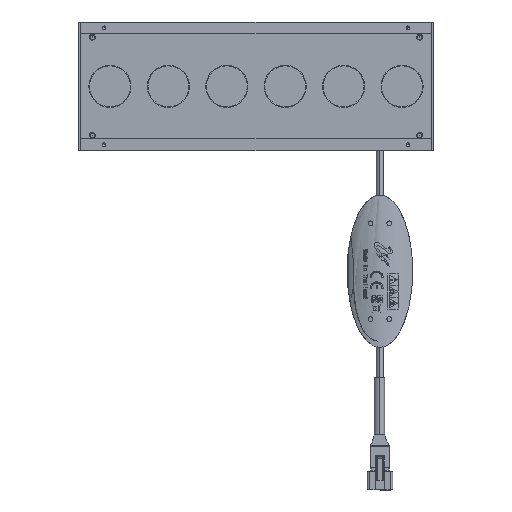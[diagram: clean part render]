
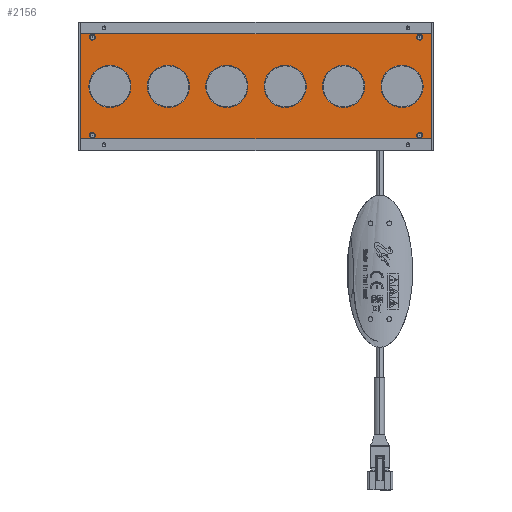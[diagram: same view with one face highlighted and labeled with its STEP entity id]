
A CAD part, top view. The second image highlights one B-rep face of the part: STEP entity #2156.
In plain terms, the highlighted planar face has unit normal (0, 0, 1).
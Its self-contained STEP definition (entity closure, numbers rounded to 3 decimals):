
#2156=ADVANCED_FACE('',(#4230,#4231,#4232,#4233,#4234,#4235,#4236,#4237,#4238,#4239,#4240),#4241,.T.);
#4230=FACE_OUTER_BOUND('',#6577,.T.);
#4231=FACE_BOUND('',#6578,.T.);
#4232=FACE_BOUND('',#6579,.T.);
#4233=FACE_BOUND('',#6580,.T.);
#4234=FACE_BOUND('',#6581,.T.);
#4235=FACE_BOUND('',#6582,.T.);
#4236=FACE_BOUND('',#6583,.T.);
#4237=FACE_BOUND('',#6584,.T.);
#4238=FACE_BOUND('',#6585,.T.);
#4239=FACE_BOUND('',#6586,.T.);
#4240=FACE_BOUND('',#6587,.T.);
#4241=PLANE('',#6588);
#6577=EDGE_LOOP('',(#12239,#12240,#12241,#12242));
#6578=EDGE_LOOP('',(#12243,#12244));
#6579=EDGE_LOOP('',(#12245,#12246));
#6580=EDGE_LOOP('',(#12247,#12248));
#6581=EDGE_LOOP('',(#12249,#12250));
#6582=EDGE_LOOP('',(#12251,#12252));
#6583=EDGE_LOOP('',(#12253,#12254));
#6584=EDGE_LOOP('',(#12255,#12256));
#6585=EDGE_LOOP('',(#12257,#12258));
#6586=EDGE_LOOP('',(#12259,#12260));
#6587=EDGE_LOOP('',(#12261,#12262));
#6588=AXIS2_PLACEMENT_3D('',#12263,#12264,#12265);
#12239=ORIENTED_EDGE('',*,*,#15486,.T.);
#12240=ORIENTED_EDGE('',*,*,#15487,.T.);
#12241=ORIENTED_EDGE('',*,*,#15488,.T.);
#12242=ORIENTED_EDGE('',*,*,#15489,.T.);
#12243=ORIENTED_EDGE('',*,*,#15490,.F.);
#12244=ORIENTED_EDGE('',*,*,#15491,.T.);
#12245=ORIENTED_EDGE('',*,*,#15492,.F.);
#12246=ORIENTED_EDGE('',*,*,#15493,.T.);
#12247=ORIENTED_EDGE('',*,*,#15494,.F.);
#12248=ORIENTED_EDGE('',*,*,#15495,.T.);
#12249=ORIENTED_EDGE('',*,*,#15496,.F.);
#12250=ORIENTED_EDGE('',*,*,#15497,.T.);
#12251=ORIENTED_EDGE('',*,*,#15498,.F.);
#12252=ORIENTED_EDGE('',*,*,#15499,.T.);
#12253=ORIENTED_EDGE('',*,*,#15500,.F.);
#12254=ORIENTED_EDGE('',*,*,#15501,.T.);
#12255=ORIENTED_EDGE('',*,*,#15502,.F.);
#12256=ORIENTED_EDGE('',*,*,#15503,.T.);
#12257=ORIENTED_EDGE('',*,*,#15504,.F.);
#12258=ORIENTED_EDGE('',*,*,#15505,.T.);
#12259=ORIENTED_EDGE('',*,*,#15506,.F.);
#12260=ORIENTED_EDGE('',*,*,#15507,.T.);
#12261=ORIENTED_EDGE('',*,*,#15508,.F.);
#12262=ORIENTED_EDGE('',*,*,#15509,.T.);
#12263=CARTESIAN_POINT('',(-1.0,0.0,1.5));
#12264=DIRECTION('',(0.0,0.,1.0));
#12265=DIRECTION('',(0.0,-1.0,0.));
#15486=EDGE_CURVE('',#19225,#19226,#19227,.T.);
#15487=EDGE_CURVE('',#19226,#19228,#19229,.T.);
#15488=EDGE_CURVE('',#19228,#19230,#19231,.T.);
#15489=EDGE_CURVE('',#19230,#19225,#19232,.T.);
#15490=EDGE_CURVE('',#19233,#19234,#19235,.T.);
#15491=EDGE_CURVE('',#19233,#19234,#19236,.T.);
#15492=EDGE_CURVE('',#19237,#19238,#19239,.T.);
#15493=EDGE_CURVE('',#19237,#19238,#19240,.T.);
#15494=EDGE_CURVE('',#19241,#19242,#19243,.T.);
#15495=EDGE_CURVE('',#19241,#19242,#19244,.T.);
#15496=EDGE_CURVE('',#19245,#19246,#19247,.T.);
#15497=EDGE_CURVE('',#19245,#19246,#19248,.T.);
#15498=EDGE_CURVE('',#19249,#19250,#19251,.T.);
#15499=EDGE_CURVE('',#19249,#19250,#19252,.T.);
#15500=EDGE_CURVE('',#19253,#19254,#19255,.T.);
#15501=EDGE_CURVE('',#19253,#19254,#19256,.T.);
#15502=EDGE_CURVE('',#19257,#19258,#19259,.T.);
#15503=EDGE_CURVE('',#19257,#19258,#19260,.T.);
#15504=EDGE_CURVE('',#19261,#19262,#19263,.T.);
#15505=EDGE_CURVE('',#19261,#19262,#19264,.T.);
#15506=EDGE_CURVE('',#19265,#19266,#19267,.T.);
#15507=EDGE_CURVE('',#19265,#19266,#19268,.T.);
#15508=EDGE_CURVE('',#19269,#19270,#19271,.T.);
#15509=EDGE_CURVE('',#19269,#19270,#19272,.T.);
#19225=VERTEX_POINT('',#26565);
#19226=VERTEX_POINT('',#26566);
#19227=LINE('',#26567,#26568);
#19228=VERTEX_POINT('',#26569);
#19229=LINE('',#26570,#26571);
#19230=VERTEX_POINT('',#26572);
#19231=LINE('',#26573,#26574);
#19232=LINE('',#26575,#26576);
#19233=VERTEX_POINT('',#26577);
#19234=VERTEX_POINT('',#26578);
#19235=CIRCLE('',#26579,9.0);
#19236=CIRCLE('',#26580,9.0);
#19237=VERTEX_POINT('',#26581);
#19238=VERTEX_POINT('',#26582);
#19239=CIRCLE('',#26583,9.0);
#19240=CIRCLE('',#26584,9.0);
#19241=VERTEX_POINT('',#26585);
#19242=VERTEX_POINT('',#26586);
#19243=CIRCLE('',#26587,9.0);
#19244=CIRCLE('',#26588,9.0);
#19245=VERTEX_POINT('',#26589);
#19246=VERTEX_POINT('',#26590);
#19247=CIRCLE('',#26591,9.0);
#19248=CIRCLE('',#26592,9.0);
#19249=VERTEX_POINT('',#26593);
#19250=VERTEX_POINT('',#26594);
#19251=CIRCLE('',#26595,9.0);
#19252=CIRCLE('',#26596,9.0);
#19253=VERTEX_POINT('',#26597);
#19254=VERTEX_POINT('',#26598);
#19255=CIRCLE('',#26599,9.0);
#19256=CIRCLE('',#26600,9.0);
#19257=VERTEX_POINT('',#26601);
#19258=VERTEX_POINT('',#26602);
#19259=CIRCLE('',#26603,0.9);
#19260=CIRCLE('',#26604,0.9);
#19261=VERTEX_POINT('',#26605);
#19262=VERTEX_POINT('',#26606);
#19263=CIRCLE('',#26607,0.9);
#19264=CIRCLE('',#26608,0.9);
#19265=VERTEX_POINT('',#26609);
#19266=VERTEX_POINT('',#26610);
#19267=CIRCLE('',#26611,0.9);
#19268=CIRCLE('',#26612,0.9);
#19269=VERTEX_POINT('',#26613);
#19270=VERTEX_POINT('',#26614);
#19271=CIRCLE('',#26615,0.9);
#19272=CIRCLE('',#26616,0.9);
#26565=CARTESIAN_POINT('',(150.0,0.,1.5));
#26566=CARTESIAN_POINT('',(150.0,44.8,1.5));
#26567=CARTESIAN_POINT('',(150.0,0.,1.5));
#26568=VECTOR('',#29345,44.8);
#26569=CARTESIAN_POINT('',(0.0,44.8,1.5));
#26570=CARTESIAN_POINT('',(150.0,44.8,1.5));
#26571=VECTOR('',#29346,150.0);
#26572=CARTESIAN_POINT('',(0.0,0.0,1.5));
#26573=CARTESIAN_POINT('',(0.0,44.8,1.5));
#26574=VECTOR('',#29347,44.8);
#26575=CARTESIAN_POINT('',(0.,0.,1.5));
#26576=VECTOR('',#29348,150.0);
#26577=CARTESIAN_POINT('',(12.5,31.4,1.5));
#26578=CARTESIAN_POINT('',(12.5,13.4,1.5));
#26579=AXIS2_PLACEMENT_3D('',#29349,#29350,#29351);
#26580=AXIS2_PLACEMENT_3D('',#29352,#29353,#29354);
#26581=CARTESIAN_POINT('',(37.5,31.4,1.5));
#26582=CARTESIAN_POINT('',(37.5,13.4,1.5));
#26583=AXIS2_PLACEMENT_3D('',#29355,#29356,#29357);
#26584=AXIS2_PLACEMENT_3D('',#29358,#29359,#29360);
#26585=CARTESIAN_POINT('',(62.5,31.4,1.5));
#26586=CARTESIAN_POINT('',(62.5,13.4,1.5));
#26587=AXIS2_PLACEMENT_3D('',#29361,#29362,#29363);
#26588=AXIS2_PLACEMENT_3D('',#29364,#29365,#29366);
#26589=CARTESIAN_POINT('',(87.5,31.4,1.5));
#26590=CARTESIAN_POINT('',(87.5,13.4,1.5));
#26591=AXIS2_PLACEMENT_3D('',#29367,#29368,#29369);
#26592=AXIS2_PLACEMENT_3D('',#29370,#29371,#29372);
#26593=CARTESIAN_POINT('',(112.5,31.4,1.5));
#26594=CARTESIAN_POINT('',(112.5,13.4,1.5));
#26595=AXIS2_PLACEMENT_3D('',#29373,#29374,#29375);
#26596=AXIS2_PLACEMENT_3D('',#29376,#29377,#29378);
#26597=CARTESIAN_POINT('',(137.5,31.4,1.5));
#26598=CARTESIAN_POINT('',(137.5,13.4,1.5));
#26599=AXIS2_PLACEMENT_3D('',#29379,#29380,#29381);
#26600=AXIS2_PLACEMENT_3D('',#29382,#29383,#29384);
#26601=CARTESIAN_POINT('',(5.0,44.3,1.5));
#26602=CARTESIAN_POINT('',(5.0,42.5,1.5));
#26603=AXIS2_PLACEMENT_3D('',#29385,#29386,#29387);
#26604=AXIS2_PLACEMENT_3D('',#29388,#29389,#29390);
#26605=CARTESIAN_POINT('',(5.0,2.3,1.5));
#26606=CARTESIAN_POINT('',(5.0,0.5,1.5));
#26607=AXIS2_PLACEMENT_3D('',#29391,#29392,#29393);
#26608=AXIS2_PLACEMENT_3D('',#29394,#29395,#29396);
#26609=CARTESIAN_POINT('',(145.0,44.3,1.5));
#26610=CARTESIAN_POINT('',(145.0,42.5,1.5));
#26611=AXIS2_PLACEMENT_3D('',#29397,#29398,#29399);
#26612=AXIS2_PLACEMENT_3D('',#29400,#29401,#29402);
#26613=CARTESIAN_POINT('',(145.0,2.3,1.5));
#26614=CARTESIAN_POINT('',(145.0,0.5,1.5));
#26615=AXIS2_PLACEMENT_3D('',#29403,#29404,#29405);
#26616=AXIS2_PLACEMENT_3D('',#29406,#29407,#29408);
#29345=DIRECTION('',(0.0,1.0,0.));
#29346=DIRECTION('',(-1.0,0.0,0.0));
#29347=DIRECTION('',(0.0,-1.0,0.));
#29348=DIRECTION('',(1.0,0.,0.0));
#29349=CARTESIAN_POINT('',(12.5,22.4,1.5));
#29350=DIRECTION('',(0.,0.,1.0));
#29351=DIRECTION('',(0.0,1.0,0.));
#29352=CARTESIAN_POINT('',(12.5,22.4,1.5));
#29353=DIRECTION('',(0.,0.,-1.0));
#29354=DIRECTION('',(0.,1.0,0.));
#29355=CARTESIAN_POINT('',(37.5,22.4,1.5));
#29356=DIRECTION('',(0.,0.,1.0));
#29357=DIRECTION('',(0.0,1.0,0.));
#29358=CARTESIAN_POINT('',(37.5,22.4,1.5));
#29359=DIRECTION('',(0.,0.,-1.0));
#29360=DIRECTION('',(0.,1.0,0.));
#29361=CARTESIAN_POINT('',(62.5,22.4,1.5));
#29362=DIRECTION('',(0.,0.,1.0));
#29363=DIRECTION('',(0.,1.0,0.));
#29364=CARTESIAN_POINT('',(62.5,22.4,1.5));
#29365=DIRECTION('',(0.,0.,-1.0));
#29366=DIRECTION('',(0.,1.0,0.));
#29367=CARTESIAN_POINT('',(87.5,22.4,1.5));
#29368=DIRECTION('',(0.,0.,1.0));
#29369=DIRECTION('',(0.,1.0,0.));
#29370=CARTESIAN_POINT('',(87.5,22.4,1.5));
#29371=DIRECTION('',(0.,0.,-1.0));
#29372=DIRECTION('',(0.,1.0,0.));
#29373=CARTESIAN_POINT('',(112.5,22.4,1.5));
#29374=DIRECTION('',(0.,0.,1.0));
#29375=DIRECTION('',(0.,1.0,0.));
#29376=CARTESIAN_POINT('',(112.5,22.4,1.5));
#29377=DIRECTION('',(0.,0.,-1.0));
#29378=DIRECTION('',(0.0,1.0,0.));
#29379=CARTESIAN_POINT('',(137.5,22.4,1.5));
#29380=DIRECTION('',(0.,0.,1.0));
#29381=DIRECTION('',(0.0,1.0,0.));
#29382=CARTESIAN_POINT('',(137.5,22.4,1.5));
#29383=DIRECTION('',(0.,0.,-1.0));
#29384=DIRECTION('',(0.,1.0,0.));
#29385=CARTESIAN_POINT('',(5.0,43.4,1.5));
#29386=DIRECTION('',(0.,0.,1.0));
#29387=DIRECTION('',(0.,1.0,0.));
#29388=CARTESIAN_POINT('',(5.0,43.4,1.5));
#29389=DIRECTION('',(0.,0.,-1.0));
#29390=DIRECTION('',(0.,1.0,0.));
#29391=CARTESIAN_POINT('',(5.0,1.4,1.5));
#29392=DIRECTION('',(0.,0.,1.0));
#29393=DIRECTION('',(0.,1.0,0.));
#29394=CARTESIAN_POINT('',(5.0,1.4,1.5));
#29395=DIRECTION('',(0.,0.,-1.0));
#29396=DIRECTION('',(0.,1.0,0.));
#29397=CARTESIAN_POINT('',(145.0,43.4,1.5));
#29398=DIRECTION('',(0.,0.,1.0));
#29399=DIRECTION('',(0.,1.0,0.));
#29400=CARTESIAN_POINT('',(145.0,43.4,1.5));
#29401=DIRECTION('',(0.,0.,-1.0));
#29402=DIRECTION('',(0.,1.0,0.));
#29403=CARTESIAN_POINT('',(145.0,1.4,1.5));
#29404=DIRECTION('',(0.,0.,1.0));
#29405=DIRECTION('',(0.,1.0,0.));
#29406=CARTESIAN_POINT('',(145.0,1.4,1.5));
#29407=DIRECTION('',(0.,0.,-1.0));
#29408=DIRECTION('',(0.,1.0,0.));
